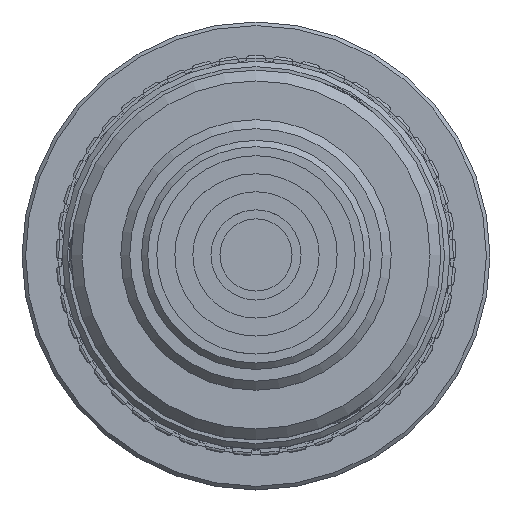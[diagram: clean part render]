
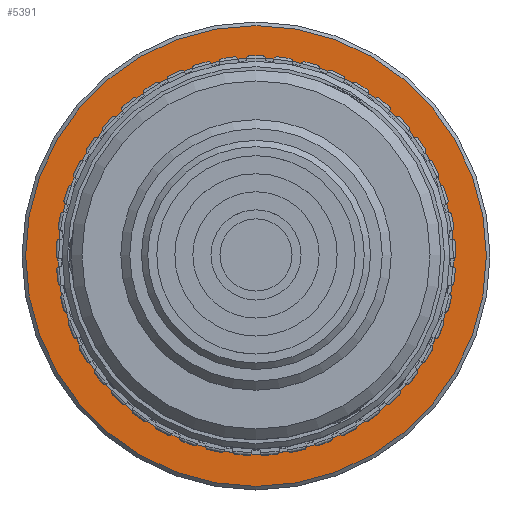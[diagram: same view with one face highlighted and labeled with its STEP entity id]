
A CAD part, top view. The second image highlights one B-rep face of the part: STEP entity #5391.
In plain terms, the highlighted planar face has unit normal (0, 0, 1).
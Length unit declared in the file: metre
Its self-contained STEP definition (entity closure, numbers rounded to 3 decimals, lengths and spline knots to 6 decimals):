
#5391=ADVANCED_FACE('0:8971',(#12641,#12642),#12643,.T.);
#12641=FACE_BOUND('',#25639,.T.);
#12642=FACE_OUTER_BOUND('',#25640,.T.);
#12643=PLANE('',#25641);
#25639=EDGE_LOOP('',(#43409));
#25640=EDGE_LOOP('',(#43410));
#25641=AXIS2_PLACEMENT_3D('',#43411,#43412,#43413);
#43409=ORIENTED_EDGE('',*,*,#64468,.F.);
#43410=ORIENTED_EDGE('',*,*,#64469,.F.);
#43411=CARTESIAN_POINT('',(0.,0.0,0.1206));
#43412=DIRECTION('',(0.0,0.,1.0));
#43413=DIRECTION('',(-1.0,0.,0.));
#64468=EDGE_CURVE('0:10309',#77064,#77064,#77065,.T.);
#64469=EDGE_CURVE('0:9382',#77066,#77066,#77067,.T.);
#77064=VERTEX_POINT('',#98013);
#77065=CIRCLE('',#98014,0.022);
#77066=VERTEX_POINT('',#98015);
#77067=CIRCLE('',#98016,0.02555);
#98013=CARTESIAN_POINT('',(0.022,0.0,0.1206));
#98014=AXIS2_PLACEMENT_3D('',#121010,#121011,#121012);
#98015=CARTESIAN_POINT('',(0.02555,0.0,0.1206));
#98016=AXIS2_PLACEMENT_3D('',#121013,#121014,#121015);
#121010=CARTESIAN_POINT('',(0.,0.0,0.1206));
#121011=DIRECTION('',(0.,0.,1.0));
#121012=DIRECTION('',(-1.0,0.,0.));
#121013=CARTESIAN_POINT('',(0.,0.0,0.1206));
#121014=DIRECTION('',(0.0,0.,-1.0));
#121015=DIRECTION('',(-1.0,0.,0.));
